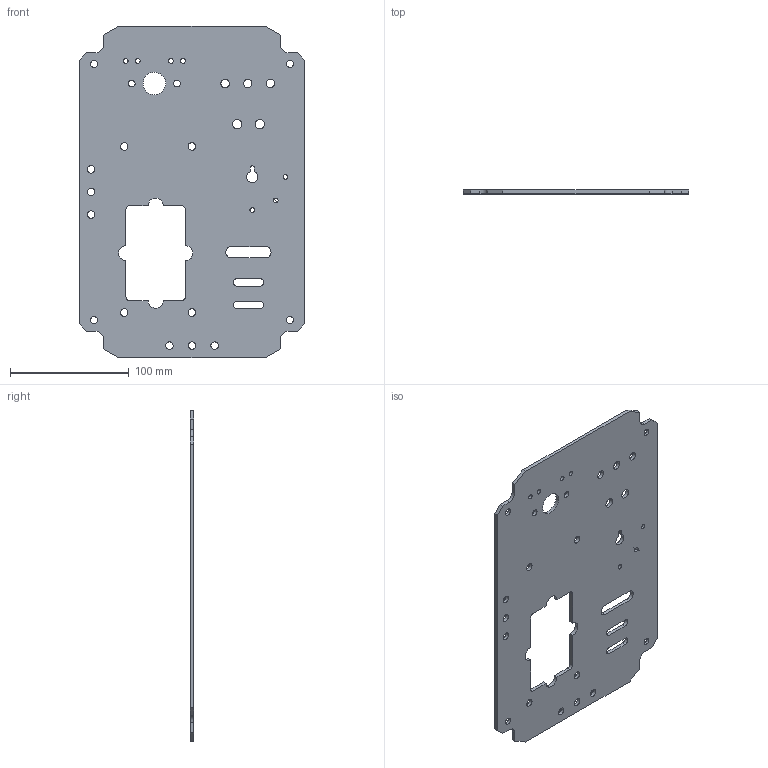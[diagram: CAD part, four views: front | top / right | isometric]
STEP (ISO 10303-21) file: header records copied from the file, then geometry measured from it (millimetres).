
FILE_DESCRIPTION(('', 'CAx-IF Rec.Pracs.---Representation and Presentation of Product Manufacturing Information (PMI)---4.1---2024-06-20'),'2;1');
FILE_NAME('nist_stc_09-242.stp', '2024-03-06T11:55:27',(' '), (' '), '', '', '');
FILE_SCHEMA(('AP242_MANAGED_MODEL_BASED_3D_ENGINEERING_MIM_LF { 1 0 10303 442 7 1 4 }'));
Length unit declared in the file: inch
Products named in the file (1): NIST PMI FTC 09 ASME1
Bounding box: 190.5 x 3.04 x 279.4 mm (x, y, z)
Volume: 136445.1 mm3; surface area: 96761.2 mm2
Topology: 1 solids, 6 shells, 163 faces, 764 edges, 648 vertices
Faces by surface type: cylinder 92, plane 63, cone 8
Entity records: 10548 total; most frequent: DIRECTION 1531, CARTESIAN_POINT 1400, ORIENTED_EDGE 928, V5_UUID_ATTRIBUTE 615, VECTOR 554, LINE 554, AXIS2_PLACEMENT_3D 501, EDGE_CURVE 474
